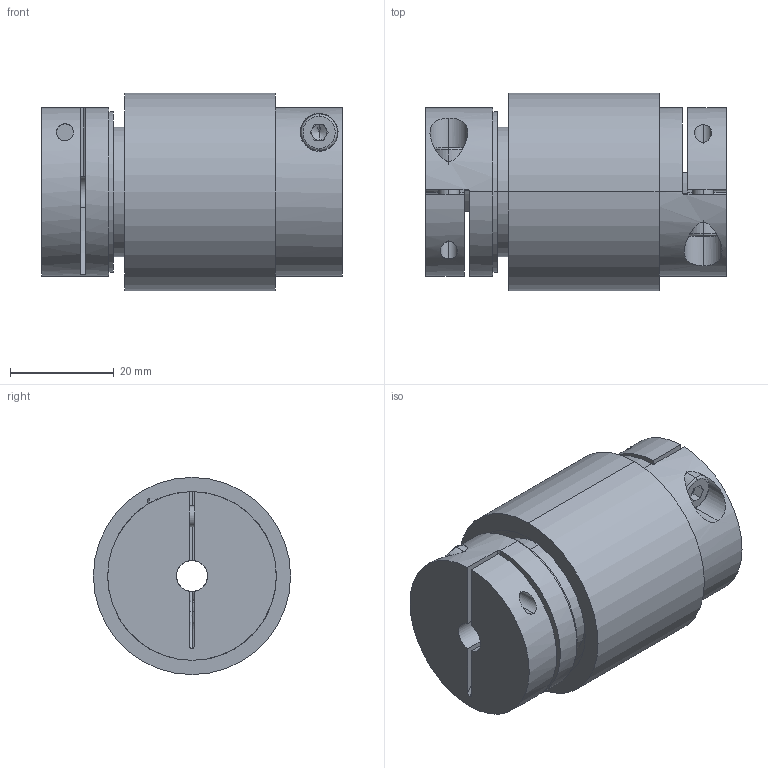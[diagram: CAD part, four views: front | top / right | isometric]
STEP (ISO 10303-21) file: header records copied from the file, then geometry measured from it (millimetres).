
FILE_DESCRIPTION (( 'STEP AP203' ), '1' );
FILE_NAME ('PMK 4.STEP', '2022-08-22T07:46:20', ( '' ), ( '' ), 'SwSTEP 2.0', 'SolidWorks 2019', '' );
FILE_SCHEMA (( 'CONFIG_CONTROL_DESIGN' ));
Length unit declared in the file: millimetre
Products named in the file (5): MGK-BNK 4,5-2G_011.00000645.100_Kunde; socket head cap screw 4762_din_EN ISO 4762 M4 x 12 - 12N; PMK Rotor 4_011.00000441.300_Kunde; PMK Stator 4_011.00000442.300_Kunde; PMK 4
Assembly tree (6 placements, depth 2):
  PMK 4
    MGK-BNK 4,5-2G_011.00000645.100_Kunde  x2
    PMK Rotor 4_011.00000441.300_Kunde
    PMK Stator 4_011.00000442.300_Kunde
    socket head cap screw 4762_din_EN ISO 4762 M4 x 12 - 12N  x2
Bounding box: 58 x 38 x 38 mm (x, y, z)
Volume: 44519.3 mm3; surface area: 23280.6 mm2
Topology: 6 solids, 6 shells, 142 faces, 322 edges, 200 vertices
Faces by surface type: plane 60, cylinder 58, torus 16, cone 8
Entity records: 3213 total; most frequent: CARTESIAN_POINT 575, DIRECTION 484, ORIENTED_EDGE 390, AXIS2_PLACEMENT_3D 201, EDGE_CURVE 195, VERTEX_POINT 124, EDGE_LOOP 109, CIRCLE 103
